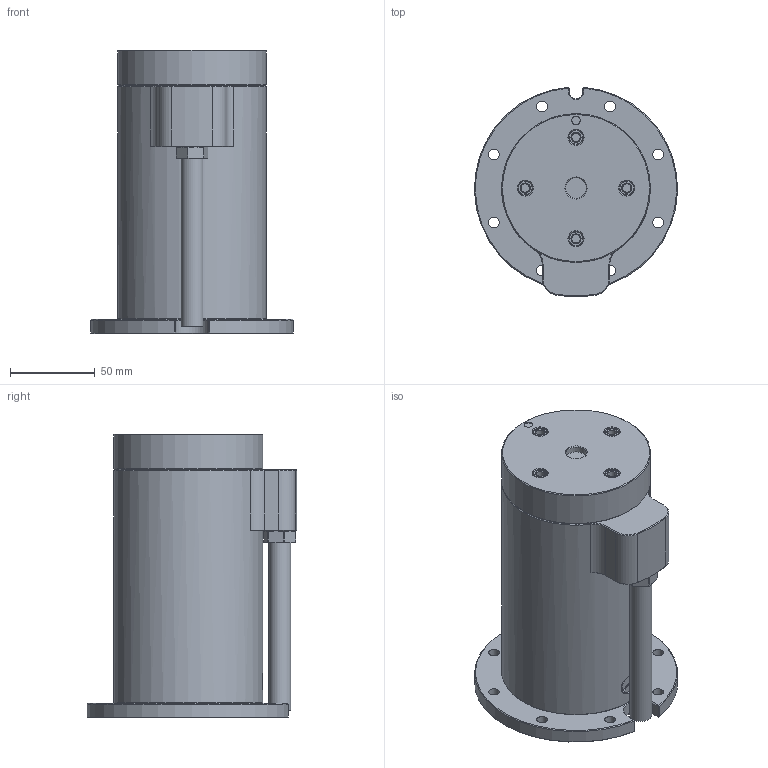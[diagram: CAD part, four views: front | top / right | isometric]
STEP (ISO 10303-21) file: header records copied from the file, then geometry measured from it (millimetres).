
FILE_DESCRIPTION(/* description */ ('Rugged Pan-Tilt Unit'),/* implementation_level */ '2;1');
FILE_NAME(/* name */ 'Z:\Vault_Workspace\Designs\Tangen\SPT-115\External\SPA-115-R_Pan_public.stp',/* time_stamp */ '2016-04-29T14:23:03+02:00',/* author */ ('Hans'),/* organization */ ('Cadatech'),/* preprocessor_version */ 'ST-DEVELOPER v16.5',/* originating_system */ 'Autodesk Inventor 2017',/* authorisation */ '');
FILE_SCHEMA (('AUTOMOTIVE_DESIGN { 1 0 10303 214 3 1 1 }'));
Length unit declared in the file: millimetre
Products named in the file (3): SPT-115-RT; SPA-115-R_Lower_Shrinkwrap_1; SPT-115-R_Shaft_Shrinkwrap_1
Assembly tree (2 placements, depth 2):
  SPT-115-RT
    SPA-115-R_Lower_Shrinkwrap_1
    SPT-115-R_Shaft_Shrinkwrap_1
Bounding box: 119.93 x 123.96 x 167.7 mm (x, y, z)
Volume: 1090610.6 mm3; surface area: 98270.9 mm2
Topology: 2 solids, 2 shells, 316 faces, 720 edges, 455 vertices
Faces by surface type: plane 177, cylinder 65, cone 59, torus 14, bspline 1
Full cylindrical faces by diameter (mm): 5 x5, 6.3 x8, 7 x9, 8.5 x4, 9.5 x8, 10.8 x1, 11 x2, 12.1 x1, 13 x1, 14.5 x1, 52.45 x1, 52.5 x1, 65 x1, 70 x1, 73 x1, 85.2 x1, 88 x2
Entity records: 8785 total; most frequent: CARTESIAN_POINT 1637, DIRECTION 1443, ORIENTED_EDGE 1222, EDGE_CURVE 611, AXIS2_PLACEMENT_3D 560, EDGE_LOOP 461, VERTEX_POINT 428, LINE 323
